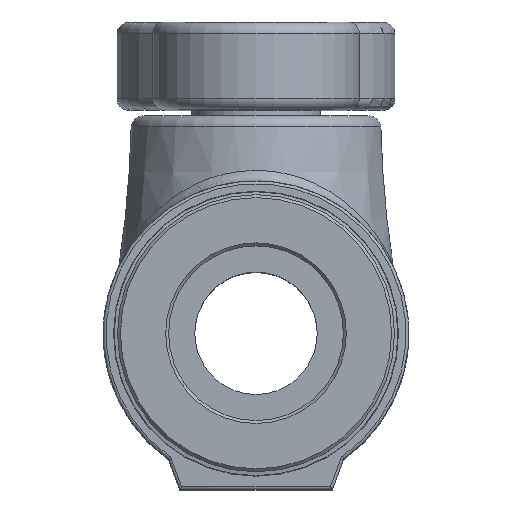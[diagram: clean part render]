
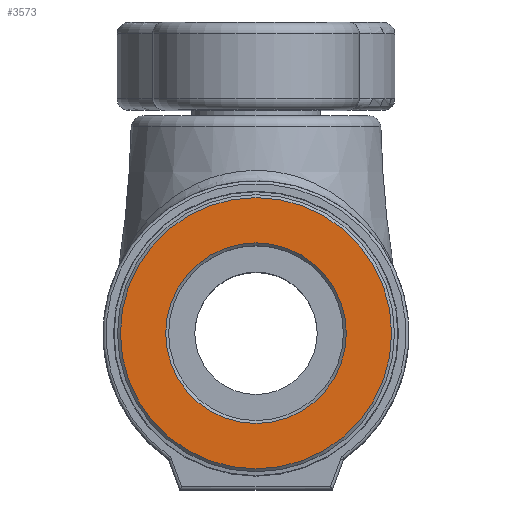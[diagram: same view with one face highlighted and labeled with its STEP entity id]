
A CAD part, top view. The second image highlights one B-rep face of the part: STEP entity #3573.
In plain terms, the highlighted planar face has unit normal (0, 0, 1).
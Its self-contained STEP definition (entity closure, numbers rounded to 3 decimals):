
#267=FACE_BOUND('',#601,.T.);
#281=PLANE('',#3828);
#368=FACE_OUTER_BOUND('',#600,.T.);
#600=EDGE_LOOP('',(#2418));
#601=EDGE_LOOP('',(#2419));
#1207=CIRCLE('',#3825,15.646);
#1210=CIRCLE('',#3829,23.5);
#1483=VERTEX_POINT('',#5464);
#1486=VERTEX_POINT('',#5472);
#1839=EDGE_CURVE('',#1483,#1483,#1207,.T.);
#1843=EDGE_CURVE('',#1486,#1486,#1210,.T.);
#2418=ORIENTED_EDGE('',*,*,#1843,.F.);
#2419=ORIENTED_EDGE('',*,*,#1839,.F.);
#3573=ADVANCED_FACE('',(#368,#267),#281,.T.);
#3825=AXIS2_PLACEMENT_3D('',#5465,#4313,#4314);
#3828=AXIS2_PLACEMENT_3D('',#5471,#4320,#4321);
#3829=AXIS2_PLACEMENT_3D('',#5473,#4322,#4323);
#4313=DIRECTION('center_axis',(0.,0.,1.));
#4314=DIRECTION('ref_axis',(0.,-1.,0.));
#4320=DIRECTION('center_axis',(0.,0.,1.));
#4321=DIRECTION('ref_axis',(1.,0.,0.));
#4322=DIRECTION('center_axis',(0.,0.,-1.));
#4323=DIRECTION('ref_axis',(0.,-1.,0.));
#5464=CARTESIAN_POINT('',(0.,15.646,0.));
#5465=CARTESIAN_POINT('Origin',(0.,0.,0.));
#5471=CARTESIAN_POINT('Origin',(0.,24.,0.));
#5472=CARTESIAN_POINT('',(0.,23.5,0.));
#5473=CARTESIAN_POINT('Origin',(0.,0.,0.));
